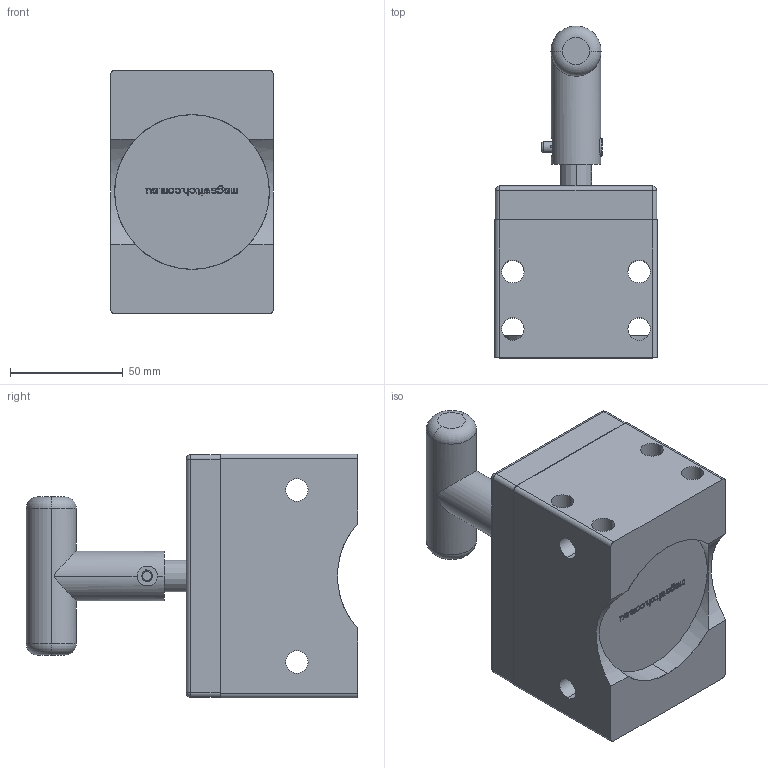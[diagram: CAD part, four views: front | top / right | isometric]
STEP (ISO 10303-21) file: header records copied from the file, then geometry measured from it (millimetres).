
FILE_DESCRIPTION (( 'STEP AP203' ), '1' );
FILE_NAME ('8100099 - MagSquare1000.STEP', '2013-03-04T18:00:15', ( '' ), ( '' ), 'SwSTEP 2.0', 'SolidWorks 2010', '' );
FILE_SCHEMA (( 'CONFIG_CONTROL_DESIGN' ));
Length unit declared in the file: millimetre
Products named in the file (1): 8100099 - MagSquare1000
Bounding box: 72 x 146.9 x 108 mm (x, y, z)
Surface area: 61329.5 mm2 (no closed solid volume)
Topology: 0 solids, 12 shells, 418 faces, 1856 edges, 1337 vertices
Faces by surface type: plane 280, cylinder 55, cone 55, bspline 18, torus 6, sphere 4
Entity records: 19520 total; most frequent: CARTESIAN_POINT 4916, DIRECTION 2848, ORIENTED_EDGE 2684, EDGE_CURVE 1850, LINE 1522, VECTOR 1522, VERTEX_POINT 1337, AXIS2_PLACEMENT_3D 663
